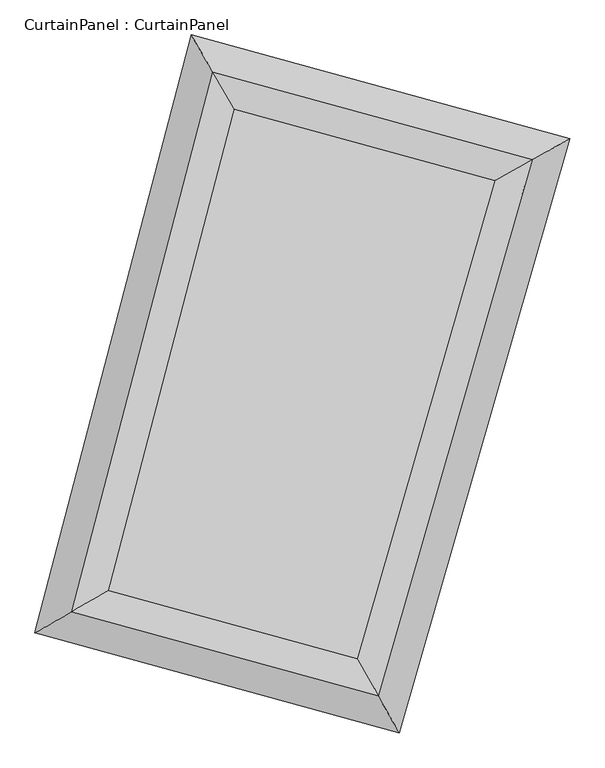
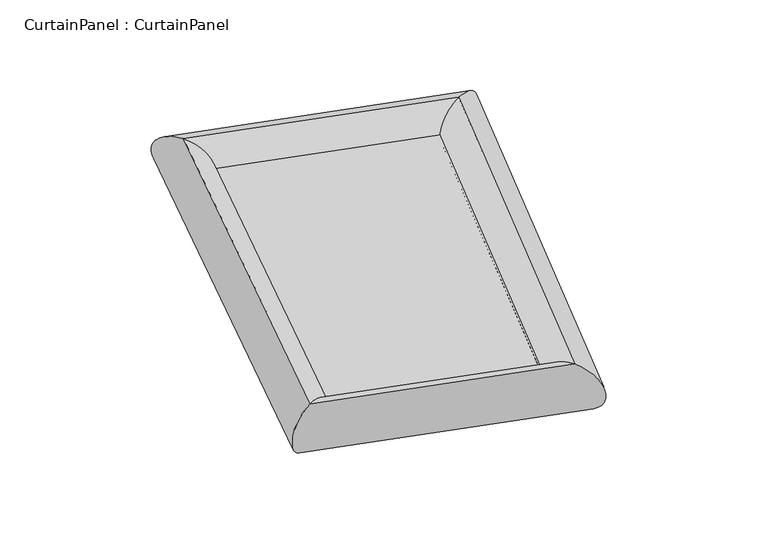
"""IFC4 building model written with IfcOpenShell, lengths in millimetres: plate geometry, CurtainPanel : CurtainPanel."""

from ifc_helpers import new_model, si_unit, frame, origin, origin_with_axes, place, context, project, spatial, polyline, ellipse_curve, outline, extrude, source, transform, mapped, element, save
from ifc_brep_helpers import cylinder_surface, advanced_brep


def curtainpanel_curtainpanel_0c149168(model_context):
    return source(origin(), model_context, "Body", "SolidModel", [
        extrude(outline(polyline([(2921.0636895, 2921.0636895), (3946.3987193, 6847.3721433), (6270.9439976, 6209.7681906), (5149.5935936, 2309.7959766), (2921.0636895, 2921.0636895)])), origin_with_axes(), (0.0, 0.0, 1.0), 20.0),
        advanced_brep(
        [(2921.0636895, 2921.0636895, -220.0), (2921.0636895, 2921.0636895, 220.0), (5149.5935936, 2309.7959766, 220.0), (5149.5935936, 2309.7959766, -220.0), (6270.9439976, 6209.7681906, 220.0), (6270.9439976, 6209.7681906, -220.0), (3946.3987193, 6847.3721433, 220.0), (3946.3987193, 6847.3721433, -220.0)],
        [
            (0, 1, ellipse_curve(frame((2921.0636895, 2921.0636895, 0.0), z_axis=(0.500195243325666, -0.8659126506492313, 0.0), x_axis=(-0.8659126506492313, -0.500195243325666, 0.0)), 309.2360039, 220.0)),
            (1, 2),
            (2, 3, ellipse_curve(frame((5149.5935936, 2309.7959766, 0.0), z_axis=(-0.8719835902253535, -0.4895351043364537, 0.0), x_axis=(-0.48953510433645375, 0.8719835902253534, 0.0)), 309.2360039, 220.0)),
            (3, 0),
            (1, 0, ellipse_curve(frame((2921.0636895, 2921.0636895, 0.0), z_axis=(0.500195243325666, -0.8659126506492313, 0.0), x_axis=(-0.8659126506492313, -0.500195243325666, 0.0)), 309.2360039, 220.0)),
            (3, 2, ellipse_curve(frame((5149.5935936, 2309.7959766, 0.0), z_axis=(-0.8719835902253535, -0.4895351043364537, 0.0), x_axis=(-0.48953510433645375, 0.8719835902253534, 0.0)), 309.2360039, 220.0)),
            (2, 4),
            (4, 5, ellipse_curve(frame((6270.9439976, 6209.7681906, 0.0), z_axis=(0.48953510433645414, -0.8719835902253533, 0.0), x_axis=(-0.8719835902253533, -0.48953510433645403, 0.0)), 313.0530834, 220.0)),
            (5, 3),
            (5, 4, ellipse_curve(frame((6270.9439976, 6209.7681906, 0.0), z_axis=(0.48953510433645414, -0.8719835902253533, 0.0), x_axis=(-0.8719835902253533, -0.48953510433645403, 0.0)), 313.0530834, 220.0)),
            (4, 6),
            (6, 7, ellipse_curve(frame((3946.3987193, 6847.3721433, 0.0), z_axis=(0.865912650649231, 0.5001952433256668, 0.0), x_axis=(0.5001952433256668, -0.8659126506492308, 0.0)), 313.0530834, 220.0)),
            (7, 5),
            (7, 6, ellipse_curve(frame((3946.3987193, 6847.3721433, 0.0), z_axis=(0.865912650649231, 0.5001952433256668, 0.0), x_axis=(0.5001952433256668, -0.8659126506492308, 0.0)), 313.0530834, 220.0)),
            (6, 1),
            (0, 7),
        ],
        [
            cylinder_surface(frame((2921.0636895, 2921.0636895, 0.0), z_axis=(-0.9643797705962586, 0.26452156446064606, 0.0), x_axis=(0.26452156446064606, 0.9643797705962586, 0.0)), 220.0),
            cylinder_surface(frame((5149.5935936, 2309.7959766, 0.0), z_axis=(-0.2763320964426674, -0.9610622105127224, 0.0), x_axis=(-0.9610622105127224, 0.2763320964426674, 0.0)), 220.0),
            cylinder_surface(frame((6270.9439976, 6209.7681906, 0.0), z_axis=(0.9643797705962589, -0.26452156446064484, 0.0), x_axis=(-0.26452156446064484, -0.9643797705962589, 0.0)), 220.0),
            cylinder_surface(frame((3946.3987193, 6847.3721433, 0.0), z_axis=(0.2526712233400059, 0.9675521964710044, 0.0), x_axis=(0.9675521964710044, -0.2526712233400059, 0.0)), 220.0),
        ],
        [
            (0, [[1, 2, 3, 4]]),
            (0, [[5, -4, 6, -2]]),
            (1, [[-3, 7, 8, 9]]),
            (1, [[-6, -9, 10, -7]]),
            (2, [[-8, 11, 12, 13]]),
            (2, [[-10, -13, 14, -11]]),
            (3, [[-12, 15, -1, 16]]),
            (3, [[-14, -16, -5, -15]]),
        ],
    ),
    ])


if __name__ == "__main__":
    model = new_model("IFC4")
    model_context = context("Model", 3, world=origin())
    ifc_project = project(units=[si_unit("LENGTHUNIT", "METRE", prefix="MILLI")], contexts=[model_context])
    site = spatial("IfcSite", under=ifc_project)
    building = spatial("IfcBuilding", under=site)
    placement = place(None, origin())
    curtainpanel_curtainpanel_shape = curtainpanel_curtainpanel_0c149168(model_context)
    element("IfcPlate", 1, ObjectType="CurtainPanel : CurtainPanel", at=placement, inside=building, context=model_context, shape_type="MappedRepresentation", body=[
        mapped(curtainpanel_curtainpanel_shape, transform((0.0, 0.0, 0.0), x_axis=(1.0, 0.0, 0.0), y_axis=(0.0, 1.0, 0.0), z_axis=(0.0, 0.0, 1.0))),
    ])
    save(model, "model.ifc")
